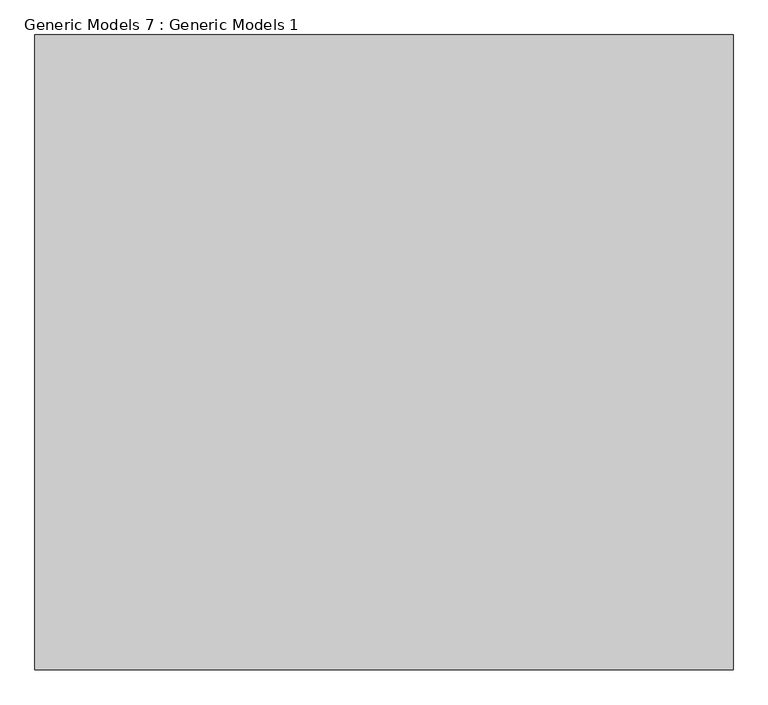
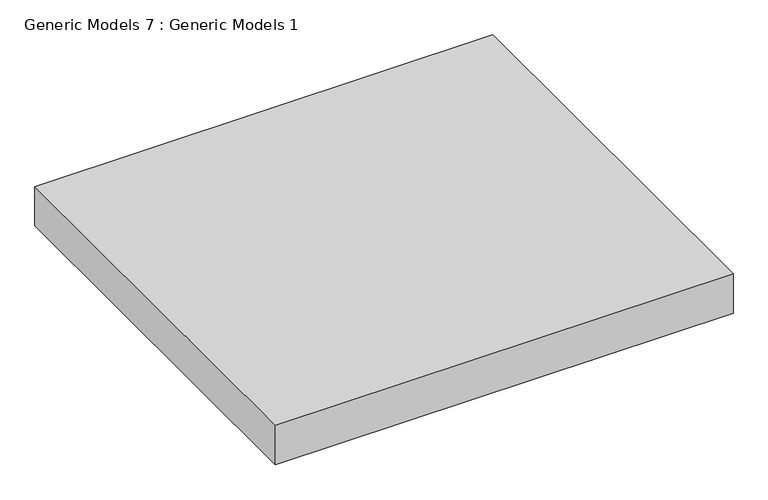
"""IFC4 building model written with IfcOpenShell, lengths in millimetres: proxy geometry, Generic Models 7 : Generic Models 1."""

from ifc_helpers import new_model, si_unit, origin, origin_with_axes, place, context, project, spatial, polyline, outline, extrude, source, transform, mapped, element, save


def generic_models_7_generic_models_1_56dbdd54(model_context):
    return source(origin(), model_context, "Body", "SweptSolid", [
        extrude(outline(polyline([(-5304.8268345, -3424.1855869), (-5304.8268345, -2424.1855869), (-4204.8268345, -2424.1855869), (-4204.8268345, -3424.1855869), (-5304.8268345, -3424.1855869)])), origin_with_axes(), (0.0, 0.0, 1.0), 100.0),
    ])


if __name__ == "__main__":
    model = new_model("IFC4")
    model_context = context("Model", 3, world=origin())
    ifc_project = project(units=[si_unit("LENGTHUNIT", "METRE", prefix="MILLI")], contexts=[model_context])
    site = spatial("IfcSite", under=ifc_project)
    building = spatial("IfcBuilding", under=site)
    placement = place(None, origin())
    generic_models_7_generic_models_1_shape = generic_models_7_generic_models_1_56dbdd54(model_context)
    element("IfcBuildingElementProxy", 1, Name="Generic Models 7 : Generic Models 1", ObjectType="Generic Models 7 : Generic Models 1", at=placement, inside=building, context=model_context, shape_type="MappedRepresentation", body=[
        mapped(generic_models_7_generic_models_1_shape, transform((0.0, 0.0, 0.0), x_axis=(1.0, 0.0, 0.0), y_axis=(0.0, 1.0, 0.0), z_axis=(0.0, 0.0, 1.0))),
    ])
    save(model, "model.ifc")
